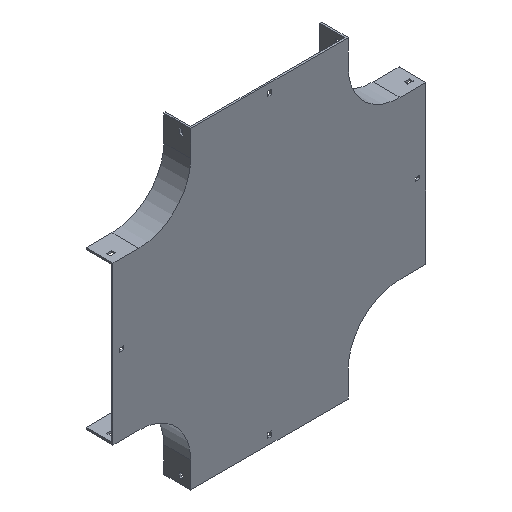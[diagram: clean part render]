
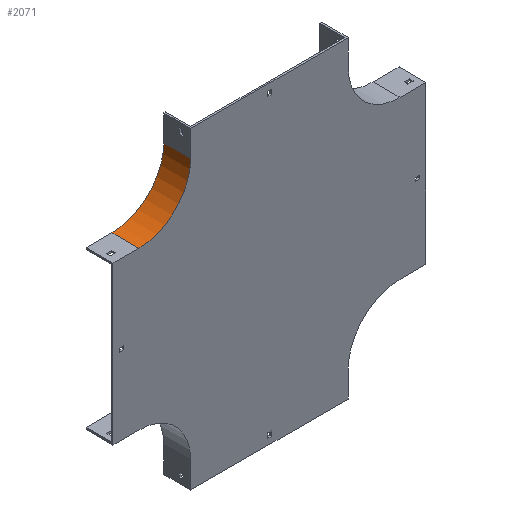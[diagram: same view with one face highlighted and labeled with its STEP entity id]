
A CAD part, isometric view. The second image highlights one B-rep face of the part: STEP entity #2071.
In plain terms, the highlighted cylindrical face has radius 100 mm (diameter 200 mm), a partial arc.
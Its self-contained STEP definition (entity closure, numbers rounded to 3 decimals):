
#49 = EDGE_CURVE ( 'NONE', #1874, #1314, #2283, .T. ) ;
#51 = VECTOR ( 'NONE', #1821, 1000. ) ;
#95 = DIRECTION ( 'NONE',  ( 0., 0., 1. ) ) ;
#161 = EDGE_LOOP ( 'NONE', ( #1423, #2716, #2667, #2085 ) ) ;
#230 = DIRECTION ( 'NONE',  ( 0., -1., 0. ) ) ;
#244 = CARTESIAN_POINT ( 'NONE',  ( -404., 52., 0. ) ) ;
#341 = VECTOR ( 'NONE', #1730, 1000. ) ;
#461 = LINE ( 'NONE', #244, #341 ) ;
#512 = DIRECTION ( 'NONE',  ( 0., 0., -1. ) ) ;
#750 = CARTESIAN_POINT ( 'NONE',  ( -504., 0., -100. ) ) ;
#878 = VERTEX_POINT ( 'NONE', #2041 ) ;
#1155 = CARTESIAN_POINT ( 'NONE',  ( -504., 52., 0. ) ) ;
#1272 = CARTESIAN_POINT ( 'NONE',  ( -404., 52., 0. ) ) ;
#1314 = VERTEX_POINT ( 'NONE', #750 ) ;
#1388 = CARTESIAN_POINT ( 'NONE',  ( -504., 52., 0. ) ) ;
#1423 = ORIENTED_EDGE ( 'NONE', *, *, #1468, .T. ) ;
#1441 = AXIS2_PLACEMENT_3D ( 'NONE', #1155, #2666, #95 ) ;
#1468 = EDGE_CURVE ( 'NONE', #1314, #878, #2286, .T. ) ;
#1585 = CARTESIAN_POINT ( 'NONE',  ( -504., 52., -100. ) ) ;
#1715 = DIRECTION ( 'NONE',  ( 0., 0., 1. ) ) ;
#1730 = DIRECTION ( 'NONE',  ( 0., -1., 0. ) ) ;
#1755 = AXIS2_PLACEMENT_3D ( 'NONE', #2357, #230, #1715 ) ;
#1804 = VERTEX_POINT ( 'NONE', #1272 ) ;
#1821 = DIRECTION ( 'NONE',  ( 0., -1., 0. ) ) ;
#1840 = AXIS2_PLACEMENT_3D ( 'NONE', #1388, #2222, #512 ) ;
#1874 = VERTEX_POINT ( 'NONE', #1585 ) ;
#1888 = EDGE_CURVE ( 'NONE', #1874, #1804, #2643, .T. ) ;
#2041 = CARTESIAN_POINT ( 'NONE',  ( -404., 0., 0. ) ) ;
#2071 = ADVANCED_FACE ( 'NONE', ( #2401 ), #2603, .F. ) ;
#2075 = CARTESIAN_POINT ( 'NONE',  ( -504., 52., -100. ) ) ;
#2085 = ORIENTED_EDGE ( 'NONE', *, *, #49, .T. ) ;
#2222 = DIRECTION ( 'NONE',  ( 0., -1., 0. ) ) ;
#2283 = LINE ( 'NONE', #2075, #51 ) ;
#2286 = CIRCLE ( 'NONE', #1755, 100. ) ;
#2357 = CARTESIAN_POINT ( 'NONE',  ( -504., 0., 0. ) ) ;
#2401 = FACE_OUTER_BOUND ( 'NONE', #161, .T. ) ;
#2476 = EDGE_CURVE ( 'NONE', #1804, #878, #461, .T. ) ;
#2603 = CYLINDRICAL_SURFACE ( 'NONE', #1840, 100. ) ;
#2643 = CIRCLE ( 'NONE', #1441, 100. ) ;
#2666 = DIRECTION ( 'NONE',  ( 0., -1., 0. ) ) ;
#2667 = ORIENTED_EDGE ( 'NONE', *, *, #1888, .F. ) ;
#2716 = ORIENTED_EDGE ( 'NONE', *, *, #2476, .F. ) ;
